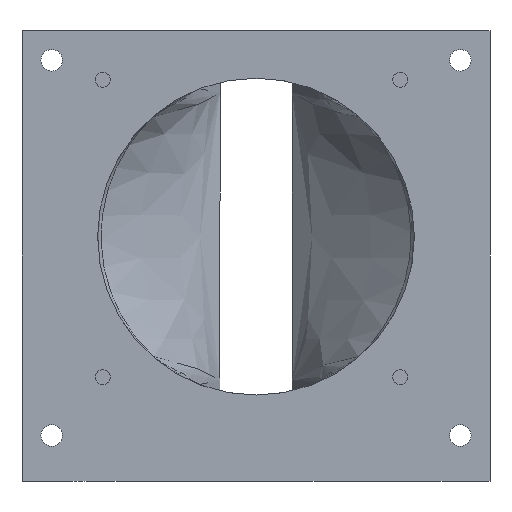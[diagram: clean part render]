
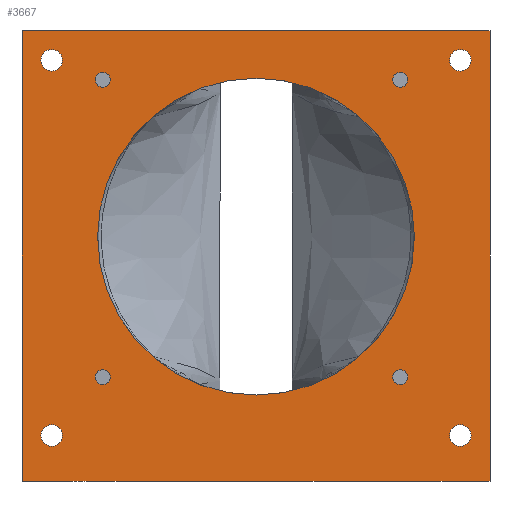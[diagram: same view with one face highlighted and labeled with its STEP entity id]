
A CAD part, front view. The second image highlights one B-rep face of the part: STEP entity #3667.
In plain terms, the highlighted planar face has unit normal (0, -1, 0).
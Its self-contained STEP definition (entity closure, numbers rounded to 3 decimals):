
#372=FACE_BOUND('',#715,.T.);
#373=FACE_BOUND('',#716,.T.);
#374=FACE_BOUND('',#717,.T.);
#375=FACE_BOUND('',#718,.T.);
#376=FACE_BOUND('',#719,.T.);
#377=FACE_BOUND('',#720,.T.);
#378=FACE_BOUND('',#721,.T.);
#379=FACE_BOUND('',#722,.T.);
#380=FACE_BOUND('',#723,.T.);
#425=PLANE('',#3925);
#495=FACE_OUTER_BOUND('',#714,.T.);
#714=EDGE_LOOP('',(#2648,#2649,#2650,#2651));
#715=EDGE_LOOP('',(#2652));
#716=EDGE_LOOP('',(#2653));
#717=EDGE_LOOP('',(#2654));
#718=EDGE_LOOP('',(#2655));
#719=EDGE_LOOP('',(#2656));
#720=EDGE_LOOP('',(#2657));
#721=EDGE_LOOP('',(#2658));
#722=EDGE_LOOP('',(#2659));
#723=EDGE_LOOP('',(#2660));
#956=LINE('',#4840,#1198);
#974=LINE('',#4895,#1216);
#995=LINE('',#5047,#1237);
#996=LINE('',#5048,#1238);
#1198=VECTOR('',#4199,10.);
#1216=VECTOR('',#4241,10.);
#1237=VECTOR('',#4294,10.);
#1238=VECTOR('',#4295,10.);
#1394=CIRCLE('',#3846,2.062);
#1396=CIRCLE('',#3850,2.062);
#1398=CIRCLE('',#3854,2.062);
#1400=CIRCLE('',#3858,2.063);
#1433=CIRCLE('',#3926,3.);
#1434=CIRCLE('',#3927,3.);
#1435=CIRCLE('',#3928,3.);
#1436=CIRCLE('',#3929,3.);
#1437=CIRCLE('',#3930,44.);
#1483=VERTEX_POINT('',#4691);
#1485=VERTEX_POINT('',#4698);
#1487=VERTEX_POINT('',#4705);
#1489=VERTEX_POINT('',#4712);
#1532=VERTEX_POINT('',#4837);
#1533=VERTEX_POINT('',#4839);
#1557=VERTEX_POINT('',#4892);
#1558=VERTEX_POINT('',#4894);
#1600=VERTEX_POINT('',#5049);
#1601=VERTEX_POINT('',#5051);
#1602=VERTEX_POINT('',#5053);
#1603=VERTEX_POINT('',#5055);
#1604=VERTEX_POINT('',#5057);
#1861=EDGE_CURVE('',#1483,#1483,#1394,.T.);
#1864=EDGE_CURVE('',#1485,#1485,#1396,.T.);
#1867=EDGE_CURVE('',#1487,#1487,#1398,.T.);
#1870=EDGE_CURVE('',#1489,#1489,#1400,.T.);
#1931=EDGE_CURVE('',#1532,#1533,#956,.T.);
#1959=EDGE_CURVE('',#1557,#1558,#974,.T.);
#2007=EDGE_CURVE('',#1532,#1558,#995,.T.);
#2008=EDGE_CURVE('',#1533,#1557,#996,.T.);
#2009=EDGE_CURVE('',#1600,#1600,#1433,.T.);
#2010=EDGE_CURVE('',#1601,#1601,#1434,.T.);
#2011=EDGE_CURVE('',#1602,#1602,#1435,.T.);
#2012=EDGE_CURVE('',#1603,#1603,#1436,.T.);
#2013=EDGE_CURVE('',#1604,#1604,#1437,.T.);
#2648=ORIENTED_EDGE('',*,*,#1931,.F.);
#2649=ORIENTED_EDGE('',*,*,#2007,.T.);
#2650=ORIENTED_EDGE('',*,*,#1959,.F.);
#2651=ORIENTED_EDGE('',*,*,#2008,.F.);
#2652=ORIENTED_EDGE('',*,*,#1861,.T.);
#2653=ORIENTED_EDGE('',*,*,#1864,.T.);
#2654=ORIENTED_EDGE('',*,*,#1867,.T.);
#2655=ORIENTED_EDGE('',*,*,#1870,.T.);
#2656=ORIENTED_EDGE('',*,*,#2009,.T.);
#2657=ORIENTED_EDGE('',*,*,#2010,.T.);
#2658=ORIENTED_EDGE('',*,*,#2011,.T.);
#2659=ORIENTED_EDGE('',*,*,#2012,.T.);
#2660=ORIENTED_EDGE('',*,*,#2013,.T.);
#3667=ADVANCED_FACE('',(#495,#372,#373,#374,#375,#376,#377,#378,#379,#380),
#425,.F.);
#3846=AXIS2_PLACEMENT_3D('',#4692,#4049,#4050);
#3850=AXIS2_PLACEMENT_3D('',#4699,#4058,#4059);
#3854=AXIS2_PLACEMENT_3D('',#4706,#4067,#4068);
#3858=AXIS2_PLACEMENT_3D('',#4713,#4076,#4077);
#3925=AXIS2_PLACEMENT_3D('',#5046,#4292,#4293);
#3926=AXIS2_PLACEMENT_3D('',#5050,#4296,#4297);
#3927=AXIS2_PLACEMENT_3D('',#5052,#4298,#4299);
#3928=AXIS2_PLACEMENT_3D('',#5054,#4300,#4301);
#3929=AXIS2_PLACEMENT_3D('',#5056,#4302,#4303);
#3930=AXIS2_PLACEMENT_3D('',#5058,#4304,#4305);
#4049=DIRECTION('center_axis',(0.,1.,0.));
#4050=DIRECTION('ref_axis',(1.,0.,0.));
#4058=DIRECTION('center_axis',(0.,1.,0.));
#4059=DIRECTION('ref_axis',(1.,0.,0.));
#4067=DIRECTION('center_axis',(0.,1.,0.));
#4068=DIRECTION('ref_axis',(1.,0.,0.));
#4076=DIRECTION('center_axis',(0.,1.,0.));
#4077=DIRECTION('ref_axis',(1.,0.,0.));
#4199=DIRECTION('',(1.,0.,0.));
#4241=DIRECTION('',(-1.,0.,0.));
#4292=DIRECTION('center_axis',(0.,1.,0.));
#4293=DIRECTION('ref_axis',(-1.,0.,0.));
#4294=DIRECTION('',(0.,0.,-1.));
#4295=DIRECTION('',(0.,0.,-1.));
#4296=DIRECTION('center_axis',(0.,1.,0.));
#4297=DIRECTION('ref_axis',(1.,0.,0.));
#4298=DIRECTION('center_axis',(0.,1.,0.));
#4299=DIRECTION('ref_axis',(1.,0.,0.));
#4300=DIRECTION('center_axis',(0.,1.,0.));
#4301=DIRECTION('ref_axis',(1.,0.,0.));
#4302=DIRECTION('center_axis',(0.,1.,0.));
#4303=DIRECTION('ref_axis',(1.,0.,0.));
#4304=DIRECTION('center_axis',(0.,1.,0.));
#4305=DIRECTION('ref_axis',(-1.,0.,0.));
#4691=CARTESIAN_POINT('',(109.268,-4.,-351.331));
#4692=CARTESIAN_POINT('Origin',(111.331,-4.,-351.331));
#4698=CARTESIAN_POINT('',(109.268,-4.,-268.67));
#4699=CARTESIAN_POINT('Origin',(111.331,-4.,-268.67));
#4705=CARTESIAN_POINT('',(26.607,-4.,-351.331));
#4706=CARTESIAN_POINT('Origin',(28.67,-4.,-351.331));
#4712=CARTESIAN_POINT('',(26.607,-4.,-268.67));
#4713=CARTESIAN_POINT('Origin',(28.67,-4.,-268.67));
#4837=CARTESIAN_POINT('',(6.25,-4.,-255.019));
#4839=CARTESIAN_POINT('',(136.25,-4.,-255.019));
#4840=CARTESIAN_POINT('',(76.25,-4.,-255.019));
#4892=CARTESIAN_POINT('',(136.25,-4.,-380.269));
#4894=CARTESIAN_POINT('',(6.25,-4.,-380.269));
#4895=CARTESIAN_POINT('',(136.25,-4.,-380.269));
#5046=CARTESIAN_POINT('Origin',(71.25,-4.,-312.269));
#5047=CARTESIAN_POINT('',(6.25,-4.,-377.269));
#5048=CARTESIAN_POINT('',(136.25,-4.,-337.269));
#5049=CARTESIAN_POINT('',(125.,-4.,-263.269));
#5050=CARTESIAN_POINT('Origin',(128.,-4.,-263.269));
#5051=CARTESIAN_POINT('',(125.,-4.,-367.519));
#5052=CARTESIAN_POINT('Origin',(128.,-4.,-367.519));
#5053=CARTESIAN_POINT('',(11.5,-4.,-263.269));
#5054=CARTESIAN_POINT('Origin',(14.5,-4.,-263.269));
#5055=CARTESIAN_POINT('',(11.5,-4.,-367.519));
#5056=CARTESIAN_POINT('Origin',(14.5,-4.,-367.519));
#5057=CARTESIAN_POINT('',(115.25,-4.,-312.269));
#5058=CARTESIAN_POINT('Origin',(71.25,-4.,-312.269));
